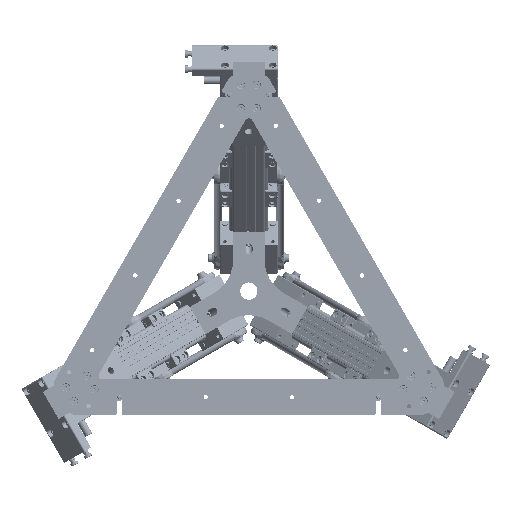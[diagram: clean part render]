
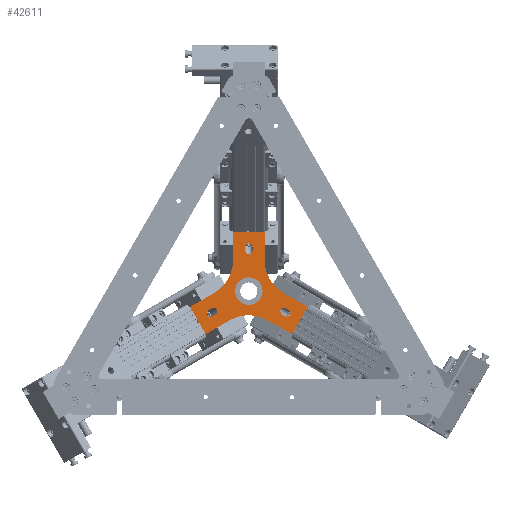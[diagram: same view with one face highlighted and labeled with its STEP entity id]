
A CAD part, front view. The second image highlights one B-rep face of the part: STEP entity #42611.
In plain terms, the highlighted planar face has unit normal (0, -1, 0) as drawn and (0, 0, -1) by its records, which use the part's own axes.
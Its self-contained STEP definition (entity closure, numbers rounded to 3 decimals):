
#895=ELLIPSE('',#47987,7.071,5.);
#896=ELLIPSE('',#47988,7.071,5.);
#897=ELLIPSE('',#47996,7.071,5.);
#898=ELLIPSE('',#47997,7.071,5.);
#899=ELLIPSE('',#48005,7.071,5.);
#900=ELLIPSE('',#48006,7.071,5.);
#1995=FACE_BOUND('',#8503,.T.);
#1996=FACE_BOUND('',#8504,.T.);
#1997=FACE_BOUND('',#8505,.T.);
#1998=FACE_BOUND('',#8506,.T.);
#3028=PLANE('',#48009);
#5955=FACE_OUTER_BOUND('',#8502,.T.);
#8502=EDGE_LOOP('',(#38339,#38340,#38341,#38342,#38343,#38344,#38345,#38346,
#38347,#38348,#38349,#38350));
#8503=EDGE_LOOP('',(#38351,#38352));
#8504=EDGE_LOOP('',(#38353,#38354));
#8505=EDGE_LOOP('',(#38355,#38356));
#8506=EDGE_LOOP('',(#38357));
#11916=LINE('',#75151,#15225);
#11917=LINE('',#75153,#15226);
#11918=LINE('',#75155,#15227);
#11919=LINE('',#75159,#15228);
#11920=LINE('',#75161,#15229);
#11921=LINE('',#75163,#15230);
#11922=LINE('',#75167,#15231);
#11923=LINE('',#75169,#15232);
#11924=LINE('',#75171,#15233);
#15225=VECTOR('',#59337,10.);
#15226=VECTOR('',#59338,10.);
#15227=VECTOR('',#59339,10.);
#15228=VECTOR('',#59342,10.);
#15229=VECTOR('',#59343,10.);
#15230=VECTOR('',#59344,10.);
#15231=VECTOR('',#59347,10.);
#15232=VECTOR('',#59348,10.);
#15233=VECTOR('',#59349,10.);
#17572=CIRCLE('',#48010,49.282);
#17573=CIRCLE('',#48011,49.282);
#17574=CIRCLE('',#48012,49.282);
#17575=CIRCLE('',#48013,17.5);
#21358=VERTEX_POINT('',#75105);
#21359=VERTEX_POINT('',#75106);
#21364=VERTEX_POINT('',#75122);
#21365=VERTEX_POINT('',#75123);
#21370=VERTEX_POINT('',#75139);
#21371=VERTEX_POINT('',#75140);
#21373=VERTEX_POINT('',#75149);
#21374=VERTEX_POINT('',#75150);
#21375=VERTEX_POINT('',#75152);
#21376=VERTEX_POINT('',#75154);
#21377=VERTEX_POINT('',#75156);
#21378=VERTEX_POINT('',#75158);
#21379=VERTEX_POINT('',#75160);
#21380=VERTEX_POINT('',#75162);
#21381=VERTEX_POINT('',#75164);
#21382=VERTEX_POINT('',#75166);
#21383=VERTEX_POINT('',#75168);
#21384=VERTEX_POINT('',#75170);
#21385=VERTEX_POINT('',#75173);
#27144=EDGE_CURVE('',#21358,#21359,#895,.T.);
#27145=EDGE_CURVE('',#21359,#21358,#896,.T.);
#27152=EDGE_CURVE('',#21364,#21365,#897,.T.);
#27153=EDGE_CURVE('',#21365,#21364,#898,.T.);
#27160=EDGE_CURVE('',#21370,#21371,#899,.T.);
#27161=EDGE_CURVE('',#21371,#21370,#900,.T.);
#27165=EDGE_CURVE('',#21373,#21374,#11916,.T.);
#27166=EDGE_CURVE('',#21375,#21373,#11917,.T.);
#27167=EDGE_CURVE('',#21376,#21375,#11918,.T.);
#27168=EDGE_CURVE('',#21377,#21376,#17572,.T.);
#27169=EDGE_CURVE('',#21378,#21377,#11919,.T.);
#27170=EDGE_CURVE('',#21379,#21378,#11920,.T.);
#27171=EDGE_CURVE('',#21380,#21379,#11921,.T.);
#27172=EDGE_CURVE('',#21381,#21380,#17573,.T.);
#27173=EDGE_CURVE('',#21382,#21381,#11922,.T.);
#27174=EDGE_CURVE('',#21383,#21382,#11923,.T.);
#27175=EDGE_CURVE('',#21384,#21383,#11924,.T.);
#27176=EDGE_CURVE('',#21374,#21384,#17574,.T.);
#27177=EDGE_CURVE('',#21385,#21385,#17575,.T.);
#38339=ORIENTED_EDGE('',*,*,#27165,.F.);
#38340=ORIENTED_EDGE('',*,*,#27166,.F.);
#38341=ORIENTED_EDGE('',*,*,#27167,.F.);
#38342=ORIENTED_EDGE('',*,*,#27168,.F.);
#38343=ORIENTED_EDGE('',*,*,#27169,.F.);
#38344=ORIENTED_EDGE('',*,*,#27170,.F.);
#38345=ORIENTED_EDGE('',*,*,#27171,.F.);
#38346=ORIENTED_EDGE('',*,*,#27172,.F.);
#38347=ORIENTED_EDGE('',*,*,#27173,.F.);
#38348=ORIENTED_EDGE('',*,*,#27174,.F.);
#38349=ORIENTED_EDGE('',*,*,#27175,.F.);
#38350=ORIENTED_EDGE('',*,*,#27176,.F.);
#38351=ORIENTED_EDGE('',*,*,#27144,.T.);
#38352=ORIENTED_EDGE('',*,*,#27145,.T.);
#38353=ORIENTED_EDGE('',*,*,#27152,.T.);
#38354=ORIENTED_EDGE('',*,*,#27153,.T.);
#38355=ORIENTED_EDGE('',*,*,#27160,.T.);
#38356=ORIENTED_EDGE('',*,*,#27161,.T.);
#38357=ORIENTED_EDGE('',*,*,#27177,.F.);
#42611=ADVANCED_FACE('',(#5955,#1995,#1996,#1997,#1998),#3028,.F.);
#47987=AXIS2_PLACEMENT_3D('',#75107,#59285,#59286);
#47988=AXIS2_PLACEMENT_3D('',#75108,#59287,#59288);
#47996=AXIS2_PLACEMENT_3D('',#75124,#59305,#59306);
#47997=AXIS2_PLACEMENT_3D('',#75125,#59307,#59308);
#48005=AXIS2_PLACEMENT_3D('',#75141,#59325,#59326);
#48006=AXIS2_PLACEMENT_3D('',#75142,#59327,#59328);
#48009=AXIS2_PLACEMENT_3D('',#75148,#59335,#59336);
#48010=AXIS2_PLACEMENT_3D('',#75157,#59340,#59341);
#48011=AXIS2_PLACEMENT_3D('',#75165,#59345,#59346);
#48012=AXIS2_PLACEMENT_3D('',#75172,#59350,#59351);
#48013=AXIS2_PLACEMENT_3D('',#75174,#59352,#59353);
#59285=DIRECTION('center_axis',(0.,0.,1.));
#59286=DIRECTION('ref_axis',(0.866,-0.5,0.));
#59287=DIRECTION('center_axis',(0.,0.,1.));
#59288=DIRECTION('ref_axis',(0.866,-0.5,0.));
#59305=DIRECTION('center_axis',(0.,0.,1.));
#59306=DIRECTION('ref_axis',(-0.866,-0.5,0.));
#59307=DIRECTION('center_axis',(0.,0.,1.));
#59308=DIRECTION('ref_axis',(-0.866,-0.5,0.));
#59325=DIRECTION('center_axis',(0.,0.,1.));
#59326=DIRECTION('ref_axis',(0.,1.,0.));
#59327=DIRECTION('center_axis',(0.,0.,1.));
#59328=DIRECTION('ref_axis',(0.,1.,0.));
#59335=DIRECTION('center_axis',(0.,0.,1.));
#59336=DIRECTION('ref_axis',(1.,0.,0.));
#59337=DIRECTION('',(0.866,0.5,0.));
#59338=DIRECTION('',(0.5,-0.866,0.));
#59339=DIRECTION('',(-0.866,-0.5,0.));
#59340=DIRECTION('center_axis',(0.,0.,-1.));
#59341=DIRECTION('ref_axis',(0.5,-0.866,0.));
#59342=DIRECTION('',(0.,-1.,0.));
#59343=DIRECTION('',(-1.,0.,0.));
#59344=DIRECTION('',(0.,1.,0.));
#59345=DIRECTION('center_axis',(0.,0.,-1.));
#59346=DIRECTION('ref_axis',(-1.,0.,0.));
#59347=DIRECTION('',(-0.866,0.5,0.));
#59348=DIRECTION('',(0.5,0.866,0.));
#59349=DIRECTION('',(0.866,-0.5,0.));
#59350=DIRECTION('center_axis',(0.,0.,-1.));
#59351=DIRECTION('ref_axis',(0.5,0.866,0.));
#59352=DIRECTION('center_axis',(0.,0.,-1.));
#59353=DIRECTION('ref_axis',(-1.,0.,0.));
#75105=CARTESIAN_POINT('',(40.457,-23.358,15.));
#75106=CARTESIAN_POINT('',(49.081,-22.563,15.));
#75107=CARTESIAN_POINT('Origin',(46.581,-26.893,15.));
#75108=CARTESIAN_POINT('Origin',(46.581,-26.893,15.));
#75122=CARTESIAN_POINT('',(-40.457,-23.358,15.));
#75123=CARTESIAN_POINT('',(-44.081,-31.224,15.));
#75124=CARTESIAN_POINT('Origin',(-46.581,-26.893,15.));
#75125=CARTESIAN_POINT('Origin',(-46.581,-26.893,15.));
#75139=CARTESIAN_POINT('',(0.,46.716,15.));
#75140=CARTESIAN_POINT('',(-5.,53.787,15.));
#75141=CARTESIAN_POINT('Origin',(0.,53.787,15.));
#75142=CARTESIAN_POINT('Origin',(0.,53.787,15.));
#75148=CARTESIAN_POINT('Origin',(0.,0.,15.));
#75149=CARTESIAN_POINT('',(-54.952,-54.821,15.));
#75150=CARTESIAN_POINT('',(-24.641,-37.321,15.));
#75151=CARTESIAN_POINT('',(-22.476,-36.071,15.));
#75152=CARTESIAN_POINT('',(-74.952,-20.179,15.));
#75153=CARTESIAN_POINT('',(-69.952,-28.84,15.));
#75154=CARTESIAN_POINT('',(-44.641,-2.679,15.));
#75155=CARTESIAN_POINT('',(-27.321,7.321,15.));
#75156=CARTESIAN_POINT('',(-20.,40.,15.));
#75157=CARTESIAN_POINT('Origin',(-69.282,40.,15.));
#75158=CARTESIAN_POINT('',(-20.,75.,15.));
#75159=CARTESIAN_POINT('',(-20.,37.5,15.));
#75160=CARTESIAN_POINT('',(20.,75.,15.));
#75161=CARTESIAN_POINT('',(10.,75.,15.));
#75162=CARTESIAN_POINT('',(20.,40.,15.));
#75163=CARTESIAN_POINT('',(20.,20.,15.));
#75164=CARTESIAN_POINT('',(44.641,-2.679,15.));
#75165=CARTESIAN_POINT('Origin',(69.282,40.,15.));
#75166=CARTESIAN_POINT('',(74.952,-20.179,15.));
#75167=CARTESIAN_POINT('',(42.476,-1.429,15.));
#75168=CARTESIAN_POINT('',(54.952,-54.821,15.));
#75169=CARTESIAN_POINT('',(59.952,-46.16,15.));
#75170=CARTESIAN_POINT('',(24.641,-37.321,15.));
#75171=CARTESIAN_POINT('',(7.321,-27.321,15.));
#75172=CARTESIAN_POINT('Origin',(0.,-80.,
15.));
#75173=CARTESIAN_POINT('',(17.5,0.,15.));
#75174=CARTESIAN_POINT('Origin',(0.,0.,15.));
